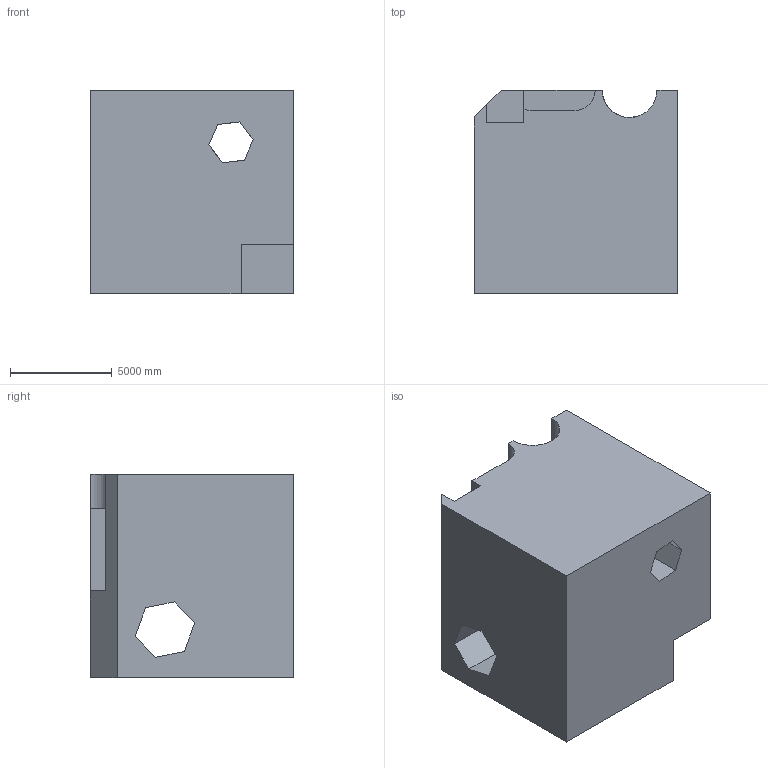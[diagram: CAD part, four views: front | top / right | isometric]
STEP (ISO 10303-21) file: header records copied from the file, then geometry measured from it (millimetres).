
FILE_DESCRIPTION (( 'STEP AP203' ), '1' );
FILE_NAME ('1618.STEP', '2022-08-18T16:12:39', ( 'user' ), ( '' ), 'SwSTEP 2.0', 'SolidWorks 2021', '' );
FILE_SCHEMA (( 'CONFIG_CONTROL_DESIGN' ));
Length unit declared in the file: centimetre
Products named in the file (1): 1618
Bounding box: 10000 x 10000 x 10000 mm (x, y, z)
Volume: 841282531091.3 mm3; surface area: 741242617.7 mm2
Topology: 1 solids, 1 shells, 32 faces, 93 edges, 62 vertices
Faces by surface type: plane 29, cylinder 3
Entity records: 1128 total; most frequent: CARTESIAN_POINT 203, ORIENTED_EDGE 186, DIRECTION 160, EDGE_CURVE 93, LINE 82, VECTOR 82, VERTEX_POINT 62, AXIS2_PLACEMENT_3D 39
